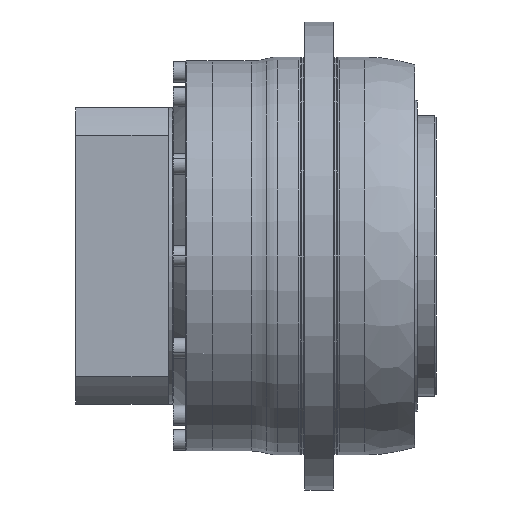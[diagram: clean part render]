
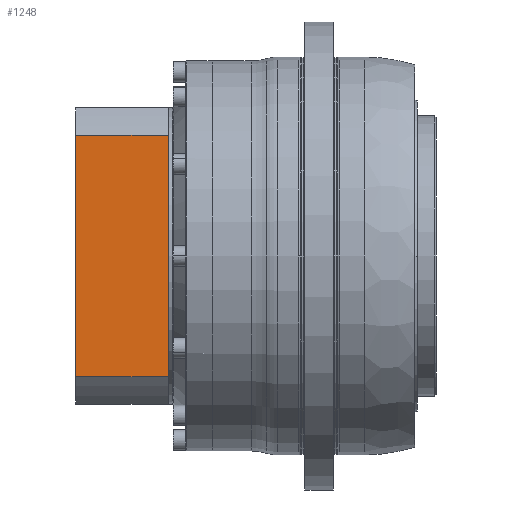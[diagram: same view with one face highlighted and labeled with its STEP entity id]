
A CAD part, front view. The second image highlights one B-rep face of the part: STEP entity #1248.
In plain terms, the highlighted planar face has unit normal (0, -1, 0).
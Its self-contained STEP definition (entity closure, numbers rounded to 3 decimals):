
#1248=ADVANCED_FACE('',(#2620),#2621,.T.);
#2620=FACE_OUTER_BOUND('',#4046,.T.);
#2621=PLANE('',#4047);
#4046=EDGE_LOOP('',(#7542,#7543,#7544,#7545));
#4047=AXIS2_PLACEMENT_3D('',#7546,#7547,#7548);
#7542=ORIENTED_EDGE('',*,*,#9245,.T.);
#7543=ORIENTED_EDGE('',*,*,#9255,.T.);
#7544=ORIENTED_EDGE('',*,*,#9233,.T.);
#7545=ORIENTED_EDGE('',*,*,#9251,.T.);
#7546=CARTESIAN_POINT('',(-57.8,-95.0,0.));
#7547=DIRECTION('',(0.0,-1.0,0.0));
#7548=DIRECTION('',(1.0,0.0,0.0));
#9233=EDGE_CURVE('',#11317,#11318,#11319,.T.);
#9245=EDGE_CURVE('',#11340,#11338,#11341,.T.);
#9251=EDGE_CURVE('',#11318,#11340,#11347,.T.);
#9255=EDGE_CURVE('',#11338,#11317,#11351,.T.);
#11317=VERTEX_POINT('',#14401);
#11318=VERTEX_POINT('',#14402);
#11319=LINE('',#14403,#14404);
#11338=VERTEX_POINT('',#14427);
#11340=VERTEX_POINT('',#14429);
#11341=LINE('',#14430,#14431);
#11347=LINE('',#14439,#14440);
#11351=LINE('',#14446,#14447);
#14401=CARTESIAN_POINT('',(-87.3,-95.0,-77.339));
#14402=CARTESIAN_POINT('',(-28.3,-95.0,-77.339));
#14403=CARTESIAN_POINT('',(-57.8,-95.0,-77.339));
#14404=VECTOR('',#17036,1.0);
#14427=CARTESIAN_POINT('',(-87.3,-95.0,77.339));
#14429=CARTESIAN_POINT('',(-28.3,-95.0,77.339));
#14430=CARTESIAN_POINT('',(-57.8,-95.0,77.339));
#14431=VECTOR('',#17056,1.0);
#14439=CARTESIAN_POINT('',(-28.3,-95.0,0.));
#14440=VECTOR('',#17062,1.0);
#14446=CARTESIAN_POINT('',(-87.3,-95.0,0.));
#14447=VECTOR('',#17065,1.0);
#17036=DIRECTION('',(1.0,0.0,0.0));
#17056=DIRECTION('',(-1.0,0.0,-0.0));
#17062=DIRECTION('',(0.0,0.0,1.0));
#17065=DIRECTION('',(0.0,0.0,-1.0));
